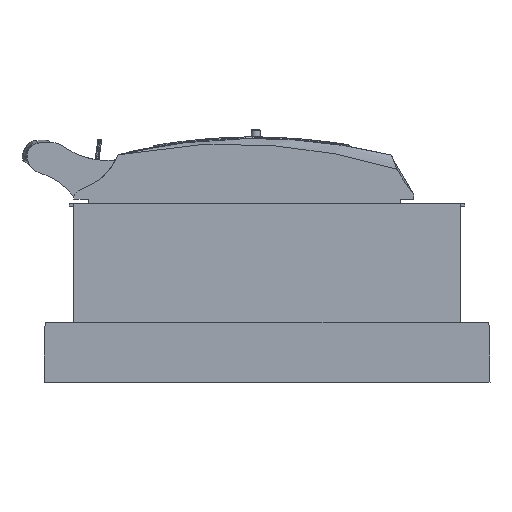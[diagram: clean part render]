
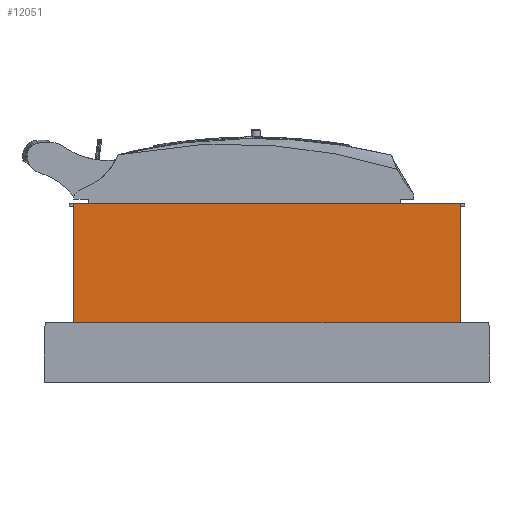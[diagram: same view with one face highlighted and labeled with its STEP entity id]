
A CAD part, front view. The second image highlights one B-rep face of the part: STEP entity #12051.
In plain terms, the highlighted planar face has unit normal (0, -1, 0).
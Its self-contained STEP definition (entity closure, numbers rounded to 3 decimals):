
#12051=ADVANCED_FACE('',(#15548),#14171,.F.);
#14171=PLANE('',#49528);
#15548=FACE_OUTER_BOUND('',#17585,.T.);
#17585=EDGE_LOOP('',(#21865,#21866,#21867,#21868));
#21865=ORIENTED_EDGE('',*,*,#36973,.T.);
#21866=ORIENTED_EDGE('',*,*,#37013,.F.);
#21867=ORIENTED_EDGE('',*,*,#37582,.F.);
#21868=ORIENTED_EDGE('',*,*,#37007,.T.);
#33024=VERTEX_POINT('',#63857);
#33026=VERTEX_POINT('',#63860);
#33054=VERTEX_POINT('',#63923);
#33059=VERTEX_POINT('',#63934);
#36973=EDGE_CURVE('',#33026,#33024,#42847,.T.);
#37007=EDGE_CURVE('',#33054,#33026,#42875,.T.);
#37013=EDGE_CURVE('',#33059,#33024,#42881,.T.);
#37582=EDGE_CURVE('',#33054,#33059,#42952,.T.);
#42847=LINE('',#63859,#46078);
#42875=LINE('',#63922,#46106);
#42881=LINE('',#63935,#46112);
#42952=LINE('',#65902,#46183);
#46078=VECTOR('',#53035,1.);
#46106=VECTOR('',#53077,1.);
#46112=VECTOR('',#53085,1.);
#46183=VECTOR('',#53930,1.);
#49528=AXIS2_PLACEMENT_3D('',#65919,#53944,#53945);
#53035=DIRECTION('',(1.,0.,0.));
#53077=DIRECTION('',(0.,0.,-1.));
#53085=DIRECTION('',(0.,0.,-1.));
#53930=DIRECTION('',(1.,0.,0.));
#53944=DIRECTION('',(0.,1.,0.));
#53945=DIRECTION('',(0.,0.,1.));
#63857=CARTESIAN_POINT('',(150.828,-104.,116.103));
#63859=CARTESIAN_POINT('',(150.828,-104.,116.103));
#63860=CARTESIAN_POINT('',(-109.172,-104.,116.103));
#63922=CARTESIAN_POINT('',(-109.172,-104.,196.103));
#63923=CARTESIAN_POINT('',(-109.172,-104.,196.103));
#63934=CARTESIAN_POINT('',(150.828,-104.,196.103));
#63935=CARTESIAN_POINT('',(150.828,-104.,196.103));
#65902=CARTESIAN_POINT('',(150.828,-104.,196.103));
#65919=CARTESIAN_POINT('',(150.828,-104.,196.103));
